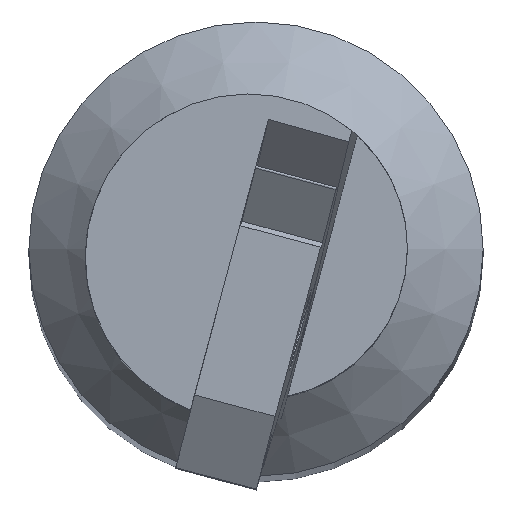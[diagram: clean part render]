
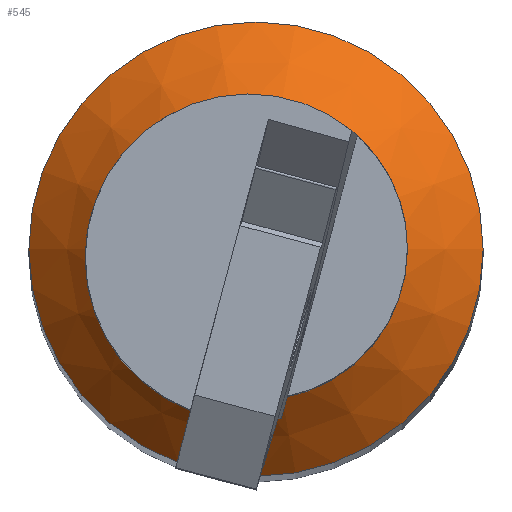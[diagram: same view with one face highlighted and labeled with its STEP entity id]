
A CAD part, top view. The second image highlights one B-rep face of the part: STEP entity #545.
In plain terms, the highlighted conical face has half-angle 45 degrees and reference radius 6.35 mm.
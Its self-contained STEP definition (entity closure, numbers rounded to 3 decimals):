
#38 = AXIS2_PLACEMENT_3D ( 'NONE', #533, #890, #1249 ) ;
#105 = EDGE_CURVE ( 'NONE', #1392, #1392, #512, .T. ) ;
#252 = VERTEX_POINT ( 'NONE', #1167 ) ;
#257 = ORIENTED_EDGE ( 'NONE', *, *, #1201, .T. ) ;
#331 = CIRCLE ( 'NONE', #38, 9.525 ) ;
#344 = DIRECTION ( 'NONE',  ( 1., 0., 0. ) ) ;
#435 = AXIS2_PLACEMENT_3D ( 'NONE', #964, #1078, #517 ) ;
#488 = CARTESIAN_POINT ( 'NONE',  ( 6.35, 0., -31.56 ) ) ;
#512 = CIRCLE ( 'NONE', #1296, 6.35 ) ;
#517 = DIRECTION ( 'NONE',  ( -1., 0., 0. ) ) ;
#533 = CARTESIAN_POINT ( 'NONE',  ( 0., 0., -34.735 ) ) ;
#545 = ADVANCED_FACE ( 'NONE', ( #892, #642 ), #860, .T. ) ;
#642 = FACE_BOUND ( 'NONE', #942, .T. ) ;
#645 = EDGE_LOOP ( 'NONE', ( #257 ) ) ;
#860 = CONICAL_SURFACE ( 'NONE', #435, 6.35, 0.785 ) ;
#890 = DIRECTION ( 'NONE',  ( 0., 0., 1. ) ) ;
#892 = FACE_OUTER_BOUND ( 'NONE', #645, .T. ) ;
#942 = EDGE_LOOP ( 'NONE', ( #1247 ) ) ;
#964 = CARTESIAN_POINT ( 'NONE',  ( 0., 0., -31.56 ) ) ;
#1041 = DIRECTION ( 'NONE',  ( 0., 0., 1. ) ) ;
#1078 = DIRECTION ( 'NONE',  ( 0., 0., -1. ) ) ;
#1167 = CARTESIAN_POINT ( 'NONE',  ( 9.525, 0., -34.735 ) ) ;
#1201 = EDGE_CURVE ( 'NONE', #252, #252, #331, .T. ) ;
#1247 = ORIENTED_EDGE ( 'NONE', *, *, #105, .F. ) ;
#1249 = DIRECTION ( 'NONE',  ( 1., 0., 0. ) ) ;
#1283 = CARTESIAN_POINT ( 'NONE',  ( 0., 0., -31.56 ) ) ;
#1296 = AXIS2_PLACEMENT_3D ( 'NONE', #1283, #1041, #344 ) ;
#1392 = VERTEX_POINT ( 'NONE', #488 ) ;
